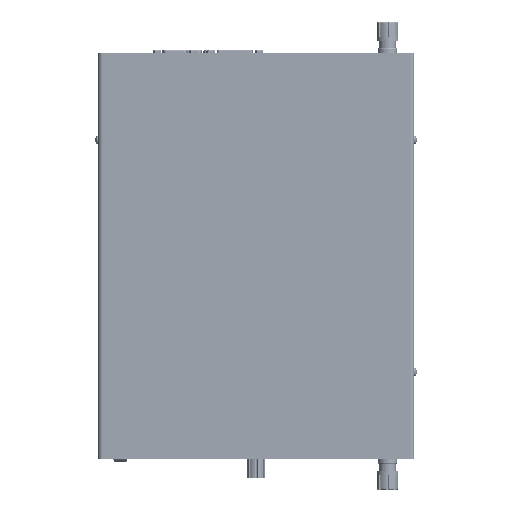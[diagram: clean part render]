
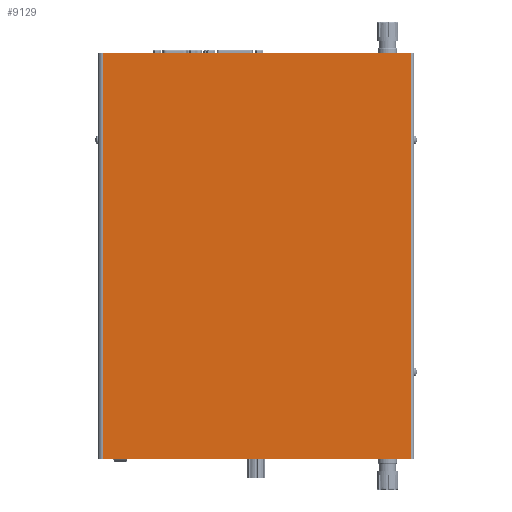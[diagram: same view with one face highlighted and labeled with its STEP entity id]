
A CAD part, top view. The second image highlights one B-rep face of the part: STEP entity #9129.
In plain terms, the highlighted planar face has unit normal (0, 0, 1).
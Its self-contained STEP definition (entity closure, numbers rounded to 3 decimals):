
#9129=ADVANCED_FACE('',(#23787),#23788,.T.);
#23787=FACE_OUTER_BOUND('',#44286,.T.);
#23788=PLANE('',#44287);
#44286=EDGE_LOOP('',(#81419,#81420,#81421,#81422));
#44287=AXIS2_PLACEMENT_3D('',#81423,#81424,#81425);
#81419=ORIENTED_EDGE('',*,*,#135119,.F.);
#81420=ORIENTED_EDGE('',*,*,#135154,.F.);
#81421=ORIENTED_EDGE('',*,*,#135114,.F.);
#81422=ORIENTED_EDGE('',*,*,#135142,.F.);
#81423=CARTESIAN_POINT('',(110.782,161.25,55.75));
#81424=DIRECTION('',(-0.0,0.0,1.0));
#81425=DIRECTION('',(1.0,0.,0.0));
#135114=EDGE_CURVE('',#160565,#160567,#160568,.T.);
#135119=EDGE_CURVE('',#160574,#160576,#160577,.T.);
#135142=EDGE_CURVE('',#160576,#160565,#160610,.T.);
#135154=EDGE_CURVE('',#160567,#160574,#160629,.T.);
#160565=VERTEX_POINT('',#196223);
#160567=VERTEX_POINT('',#196225);
#160568=LINE('',#196226,#196227);
#160574=VERTEX_POINT('',#196234);
#160576=VERTEX_POINT('',#196236);
#160577=LINE('',#196237,#196238);
#160610=LINE('',#196276,#196277);
#160629=LINE('',#196303,#196304);
#196223=CARTESIAN_POINT('',(5.032,21.25,55.75));
#196225=CARTESIAN_POINT('',(5.032,301.25,55.75));
#196226=CARTESIAN_POINT('',(5.032,161.25,55.75));
#196227=VECTOR('',#246470,1.0);
#196234=CARTESIAN_POINT('',(217.532,301.25,55.75));
#196236=CARTESIAN_POINT('',(217.532,21.25,55.75));
#196237=CARTESIAN_POINT('',(217.532,161.25,55.75));
#196238=VECTOR('',#246478,1.0);
#196276=CARTESIAN_POINT('',(219.532,21.25,55.75));
#196277=VECTOR('',#246517,1.0);
#196303=CARTESIAN_POINT('',(2.032,301.25,55.75));
#196304=VECTOR('',#246534,1.0);
#246470=DIRECTION('',(0.,1.0,0.0));
#246478=DIRECTION('',(0.,-1.0,0.0));
#246517=DIRECTION('',(-1.0,0.,0.0));
#246534=DIRECTION('',(1.0,0.,0.0));
